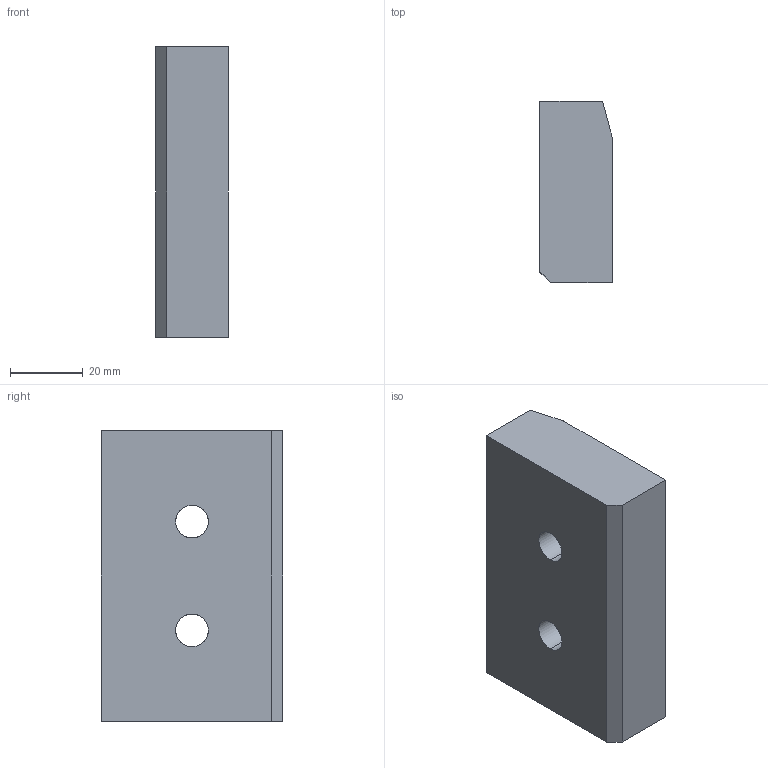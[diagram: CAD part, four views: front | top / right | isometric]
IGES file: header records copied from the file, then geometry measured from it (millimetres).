
Start section: START RECORD GO HERE.
Global section: file name: A915-80X50.igs; native system: DASSAULT SYSTEMES CATIA V5 R20 - www.3ds.com; preprocessor: CATIA Version 5 Release 20 ; author: Utente; organization: NB04-ASUS; date: 20200407.204519; units: millimetre
Bounding box: 20 x 50 x 80 mm (x, y, z)
Surface area: 13939.3 mm2 (no closed solid volume)
Topology: 0 solids, 0 shells, 23 faces, 106 edges, 106 vertices
Faces by surface type: revolution 13, extrusion 10
